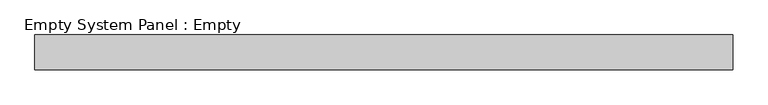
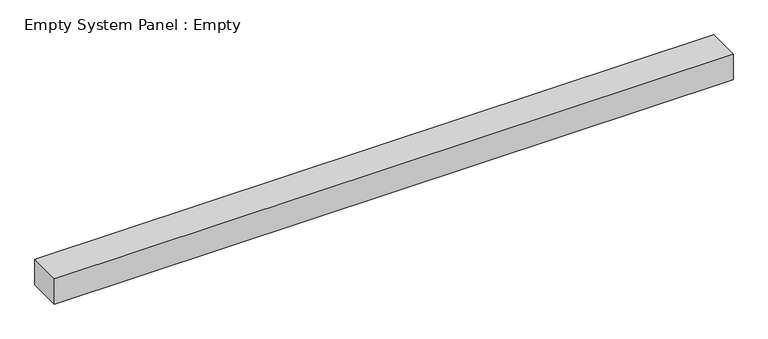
"""IFC4 building model written with IfcOpenShell, lengths in millimetres: plate geometry, Empty System Panel : Empty."""

from ifc_helpers import new_model, si_unit, origin, origin_with_axes, place, context, project, spatial, polyline, outline, extrude, source, transform, mapped, element, save


def empty_system_panel_empty_a5cbaad0(model_context):
    return source(origin(), model_context, "Body", "SweptSolid", [
        extrude(outline(polyline([(1000.0, -50.0), (-1000.0, -50.0), (-1000.0, 50.0), (1000.0, 50.0), (1000.0, -50.0)])), origin_with_axes(), (0.0, 0.0, 1.0), 79.4167389),
    ])


if __name__ == "__main__":
    model = new_model("IFC4")
    model_context = context("Model", 3, world=origin())
    ifc_project = project(units=[si_unit("LENGTHUNIT", "METRE", prefix="MILLI")], contexts=[model_context])
    site = spatial("IfcSite", under=ifc_project)
    building = spatial("IfcBuilding", under=site)
    placement = place(None, origin())
    empty_system_panel_empty_shape = empty_system_panel_empty_a5cbaad0(model_context)
    element("IfcPlate", 1, ObjectType="Empty System Panel : Empty", at=placement, inside=building, context=model_context, shape_type="MappedRepresentation", body=[
        mapped(empty_system_panel_empty_shape, transform((0.0, 0.0, 0.0), x_axis=(1.0, 0.0, 0.0), y_axis=(0.0, 1.0, 0.0), z_axis=(0.0, 0.0, 1.0))),
    ])
    save(model, "model.ifc")
